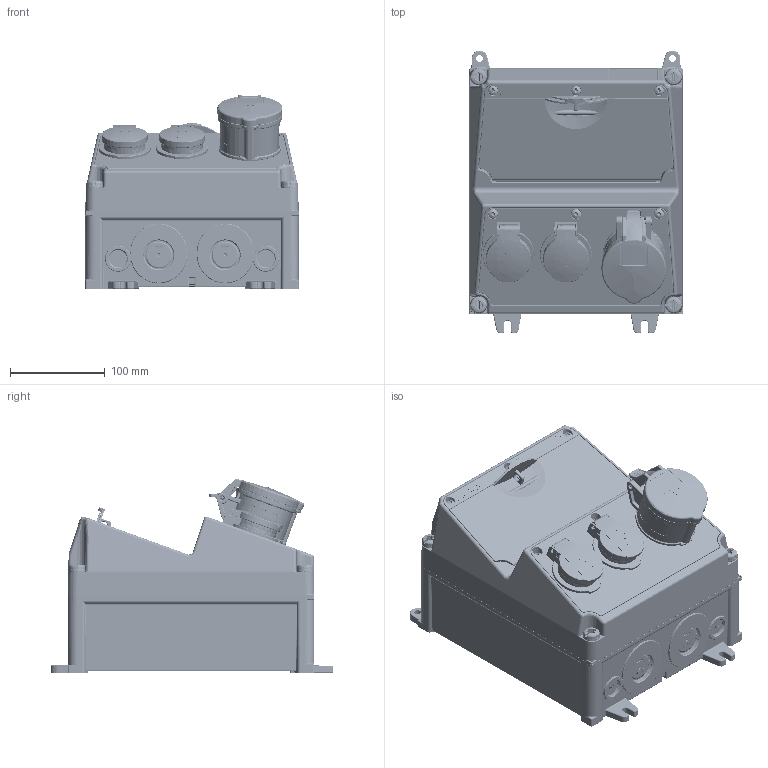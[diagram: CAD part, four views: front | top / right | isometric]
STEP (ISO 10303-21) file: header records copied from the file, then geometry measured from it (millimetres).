
FILE_DESCRIPTION((''),'2;1');
FILE_NAME('920009-8_ASM_1_ASM','2018-04-25T',('kremer'),('MENNEKES'),'PRO/ENGINEER BY PARAMETRIC TECHNOLOGY CORPORATION, 2015440','PRO/ENGINEER BY PARAMETRIC TECHNOLOGY CORPORATION, 2015440','');
FILE_SCHEMA(('AUTOMOTIVE_DESIGN { 1 0 10303 214 1 1 1 1 }'));
Products named in the file (13): 2-4_SW_O_GRAU_1; MANIFOLD_SOLID_BREP_203513; MANIFOLD_SOLID_BREP_291876; MANIFOLD_SOLID_BREP_292213; MANIFOLD_SOLID_BREP_294692; FI_4POL_4TE_1_ASM; LS_3POL_3TE_1; LS_1POL_1TE_1; MP_LEER_GRAU_1; MP_FEN10_44_OBEN_GRAU_1; AMAXX_CEE_16_5_44_ROT_1; AMAXX_SCHUKO_44_BLAU_1; 920009-8_ASM_1_ASM
Assembly tree (14 placements, depth 3):
  920009-8_ASM_1_ASM
    2-4_SW_O_GRAU_1
    FI_4POL_4TE_1_ASM
      MANIFOLD_SOLID_BREP_203513
      MANIFOLD_SOLID_BREP_291876
      MANIFOLD_SOLID_BREP_292213
      MANIFOLD_SOLID_BREP_294692
    LS_3POL_3TE_1
    LS_1POL_1TE_1  x2
    MP_LEER_GRAU_1
    MP_FEN10_44_OBEN_GRAU_1
    AMAXX_CEE_16_5_44_ROT_1
    AMAXX_SCHUKO_44_BLAU_1  x2
Bounding box: 225 x 298.2 x 204.71 mm (x, y, z)
Volume: 6345194.5 mm3; surface area: 784138.4 mm2
Topology: 13 solids, 13 shells, 10900 faces, 30072 edges, 19248 vertices
Faces by surface type: plane 5620, cylinder 2884, bspline 908, torus 797, cone 276, sphere 234, extrusion 181
Entity records: 456477 total; most frequent: CARTESIAN_POINT 128411, ORIENTED_EDGE 54494, DIRECTION 48127, EDGE_CURVE 27247, VERTEX_POINT 17482, AXIS2_PLACEMENT_3D 16124, VECTOR 15879, LINE 15735
